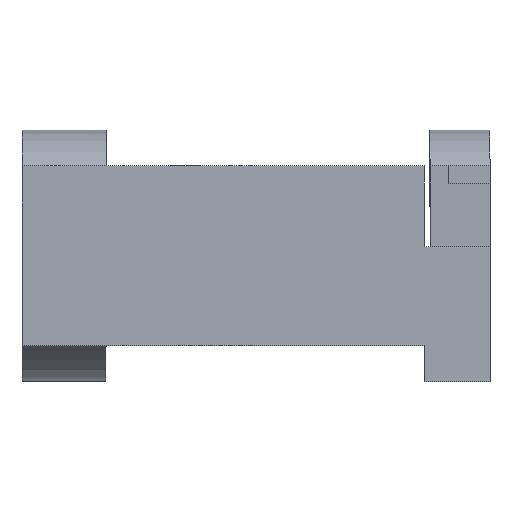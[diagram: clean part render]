
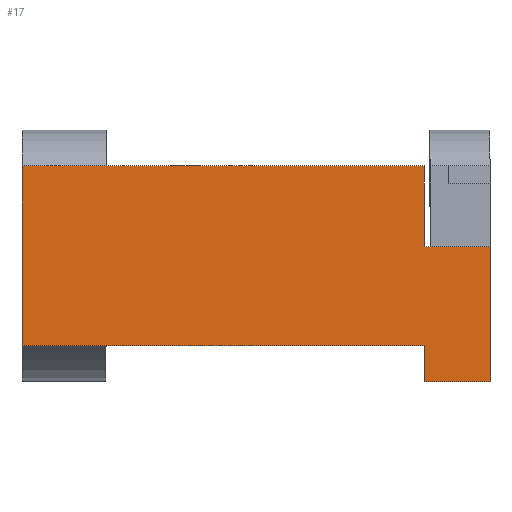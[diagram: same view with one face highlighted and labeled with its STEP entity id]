
A CAD part, left-side view. The second image highlights one B-rep face of the part: STEP entity #17.
In plain terms, the highlighted planar face has unit normal (-1, 0, 0).
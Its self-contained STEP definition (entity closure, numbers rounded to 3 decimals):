
#17 = ADVANCED_FACE('',(#18),#32,.F.);
#18 = FACE_BOUND('',#19,.F.);
#19 = EDGE_LOOP('',(#20,#55,#83,#111,#139,#167,#195,#223));
#20 = ORIENTED_EDGE('',*,*,#21,.F.);
#21 = EDGE_CURVE('',#22,#24,#26,.T.);
#22 = VERTEX_POINT('',#23);
#23 = CARTESIAN_POINT('',(-9.,3.7,-4.2));
#24 = VERTEX_POINT('',#25);
#25 = CARTESIAN_POINT('',(-9.,3.7,0.3));
#26 = SURFACE_CURVE('',#27,(#31,#43),.PCURVE_S1.);
#27 = LINE('',#28,#29);
#28 = CARTESIAN_POINT('',(-9.,3.7,-4.2));
#29 = VECTOR('',#30,1.);
#30 = DIRECTION('',(0.,0.,1.));
#31 = PCURVE('',#32,#37);
#32 = PLANE('',#33);
#33 = AXIS2_PLACEMENT_3D('',#34,#35,#36);
#34 = CARTESIAN_POINT('',(-9.,3.7,-3.));
#35 = DIRECTION('',(1.,0.,-0.));
#36 = DIRECTION('',(0.,0.,1.));
#37 = DEFINITIONAL_REPRESENTATION('',(#38),#42);
#38 = LINE('',#39,#40);
#39 = CARTESIAN_POINT('',(-1.2,0.));
#40 = VECTOR('',#41,1.);
#41 = DIRECTION('',(1.,0.));
#42 = ( GEOMETRIC_REPRESENTATION_CONTEXT(2) 
PARAMETRIC_REPRESENTATION_CONTEXT() REPRESENTATION_CONTEXT('2D SPACE',''
  ) );
#43 = PCURVE('',#44,#49);
#44 = PLANE('',#45);
#45 = AXIS2_PLACEMENT_3D('',#46,#47,#48);
#46 = CARTESIAN_POINT('',(-9.,3.7,-3.));
#47 = DIRECTION('',(-0.,1.,0.));
#48 = DIRECTION('',(0.,0.,1.));
#49 = DEFINITIONAL_REPRESENTATION('',(#50),#54);
#50 = LINE('',#51,#52);
#51 = CARTESIAN_POINT('',(-1.2,0.));
#52 = VECTOR('',#53,1.);
#53 = DIRECTION('',(1.,0.));
#54 = ( GEOMETRIC_REPRESENTATION_CONTEXT(2) 
PARAMETRIC_REPRESENTATION_CONTEXT() REPRESENTATION_CONTEXT('2D SPACE',''
  ) );
#55 = ORIENTED_EDGE('',*,*,#56,.T.);
#56 = EDGE_CURVE('',#22,#57,#59,.T.);
#57 = VERTEX_POINT('',#58);
#58 = CARTESIAN_POINT('',(-9.,5.9,-4.2));
#59 = SURFACE_CURVE('',#60,(#64,#71),.PCURVE_S1.);
#60 = LINE('',#61,#62);
#61 = CARTESIAN_POINT('',(-9.,3.7,-4.2));
#62 = VECTOR('',#63,1.);
#63 = DIRECTION('',(-0.,1.,0.));
#64 = PCURVE('',#32,#65);
#65 = DEFINITIONAL_REPRESENTATION('',(#66),#70);
#66 = LINE('',#67,#68);
#67 = CARTESIAN_POINT('',(-1.2,0.));
#68 = VECTOR('',#69,1.);
#69 = DIRECTION('',(0.,-1.));
#70 = ( GEOMETRIC_REPRESENTATION_CONTEXT(2) 
PARAMETRIC_REPRESENTATION_CONTEXT() REPRESENTATION_CONTEXT('2D SPACE',''
  ) );
#71 = PCURVE('',#72,#77);
#72 = PLANE('',#73);
#73 = AXIS2_PLACEMENT_3D('',#74,#75,#76);
#74 = CARTESIAN_POINT('',(-9.,3.7,-4.2));
#75 = DIRECTION('',(0.,0.,1.));
#76 = DIRECTION('',(1.,0.,-0.));
#77 = DEFINITIONAL_REPRESENTATION('',(#78),#82);
#78 = LINE('',#79,#80);
#79 = CARTESIAN_POINT('',(0.,0.));
#80 = VECTOR('',#81,1.);
#81 = DIRECTION('',(0.,1.));
#82 = ( GEOMETRIC_REPRESENTATION_CONTEXT(2) 
PARAMETRIC_REPRESENTATION_CONTEXT() REPRESENTATION_CONTEXT('2D SPACE',''
  ) );
#83 = ORIENTED_EDGE('',*,*,#84,.T.);
#84 = EDGE_CURVE('',#57,#85,#87,.T.);
#85 = VERTEX_POINT('',#86);
#86 = CARTESIAN_POINT('',(-9.,5.9,-3.));
#87 = SURFACE_CURVE('',#88,(#92,#99),.PCURVE_S1.);
#88 = LINE('',#89,#90);
#89 = CARTESIAN_POINT('',(-9.,5.9,-4.2));
#90 = VECTOR('',#91,1.);
#91 = DIRECTION('',(0.,0.,1.));
#92 = PCURVE('',#32,#93);
#93 = DEFINITIONAL_REPRESENTATION('',(#94),#98);
#94 = LINE('',#95,#96);
#95 = CARTESIAN_POINT('',(-1.2,-2.2));
#96 = VECTOR('',#97,1.);
#97 = DIRECTION('',(1.,0.));
#98 = ( GEOMETRIC_REPRESENTATION_CONTEXT(2) 
PARAMETRIC_REPRESENTATION_CONTEXT() REPRESENTATION_CONTEXT('2D SPACE',''
  ) );
#99 = PCURVE('',#100,#105);
#100 = PLANE('',#101);
#101 = AXIS2_PLACEMENT_3D('',#102,#103,#104);
#102 = CARTESIAN_POINT('',(-9.,5.9,-4.2));
#103 = DIRECTION('',(-0.,1.,0.));
#104 = DIRECTION('',(0.,0.,1.));
#105 = DEFINITIONAL_REPRESENTATION('',(#106),#110);
#106 = LINE('',#107,#108);
#107 = CARTESIAN_POINT('',(0.,0.));
#108 = VECTOR('',#109,1.);
#109 = DIRECTION('',(1.,0.));
#110 = ( GEOMETRIC_REPRESENTATION_CONTEXT(2) 
PARAMETRIC_REPRESENTATION_CONTEXT() REPRESENTATION_CONTEXT('2D SPACE',''
  ) );
#111 = ORIENTED_EDGE('',*,*,#112,.T.);
#112 = EDGE_CURVE('',#85,#113,#115,.T.);
#113 = VERTEX_POINT('',#114);
#114 = CARTESIAN_POINT('',(-9.,19.3,-3.));
#115 = SURFACE_CURVE('',#116,(#120,#127),.PCURVE_S1.);
#116 = LINE('',#117,#118);
#117 = CARTESIAN_POINT('',(-9.,3.7,-3.));
#118 = VECTOR('',#119,1.);
#119 = DIRECTION('',(-0.,1.,0.));
#120 = PCURVE('',#32,#121);
#121 = DEFINITIONAL_REPRESENTATION('',(#122),#126);
#122 = LINE('',#123,#124);
#123 = CARTESIAN_POINT('',(0.,0.));
#124 = VECTOR('',#125,1.);
#125 = DIRECTION('',(0.,-1.));
#126 = ( GEOMETRIC_REPRESENTATION_CONTEXT(2) 
PARAMETRIC_REPRESENTATION_CONTEXT() REPRESENTATION_CONTEXT('2D SPACE',''
  ) );
#127 = PCURVE('',#128,#133);
#128 = PLANE('',#129);
#129 = AXIS2_PLACEMENT_3D('',#130,#131,#132);
#130 = CARTESIAN_POINT('',(-9.,3.7,-3.));
#131 = DIRECTION('',(0.,0.,1.));
#132 = DIRECTION('',(1.,0.,-0.));
#133 = DEFINITIONAL_REPRESENTATION('',(#134),#138);
#134 = LINE('',#135,#136);
#135 = CARTESIAN_POINT('',(0.,0.));
#136 = VECTOR('',#137,1.);
#137 = DIRECTION('',(0.,1.));
#138 = ( GEOMETRIC_REPRESENTATION_CONTEXT(2) 
PARAMETRIC_REPRESENTATION_CONTEXT() REPRESENTATION_CONTEXT('2D SPACE',''
  ) );
#139 = ORIENTED_EDGE('',*,*,#140,.T.);
#140 = EDGE_CURVE('',#113,#141,#143,.T.);
#141 = VERTEX_POINT('',#142);
#142 = CARTESIAN_POINT('',(-9.,19.3,3.));
#143 = SURFACE_CURVE('',#144,(#148,#155),.PCURVE_S1.);
#144 = LINE('',#145,#146);
#145 = CARTESIAN_POINT('',(-9.,19.3,-3.));
#146 = VECTOR('',#147,1.);
#147 = DIRECTION('',(0.,0.,1.));
#148 = PCURVE('',#32,#149);
#149 = DEFINITIONAL_REPRESENTATION('',(#150),#154);
#150 = LINE('',#151,#152);
#151 = CARTESIAN_POINT('',(0.,-15.6));
#152 = VECTOR('',#153,1.);
#153 = DIRECTION('',(1.,0.));
#154 = ( GEOMETRIC_REPRESENTATION_CONTEXT(2) 
PARAMETRIC_REPRESENTATION_CONTEXT() REPRESENTATION_CONTEXT('2D SPACE',''
  ) );
#155 = PCURVE('',#156,#161);
#156 = PLANE('',#157);
#157 = AXIS2_PLACEMENT_3D('',#158,#159,#160);
#158 = CARTESIAN_POINT('',(-9.,19.3,-3.));
#159 = DIRECTION('',(-0.,1.,0.));
#160 = DIRECTION('',(0.,0.,1.));
#161 = DEFINITIONAL_REPRESENTATION('',(#162),#166);
#162 = LINE('',#163,#164);
#163 = CARTESIAN_POINT('',(0.,0.));
#164 = VECTOR('',#165,1.);
#165 = DIRECTION('',(1.,0.));
#166 = ( GEOMETRIC_REPRESENTATION_CONTEXT(2) 
PARAMETRIC_REPRESENTATION_CONTEXT() REPRESENTATION_CONTEXT('2D SPACE',''
  ) );
#167 = ORIENTED_EDGE('',*,*,#168,.F.);
#168 = EDGE_CURVE('',#169,#141,#171,.T.);
#169 = VERTEX_POINT('',#170);
#170 = CARTESIAN_POINT('',(-9.,5.9,3.));
#171 = SURFACE_CURVE('',#172,(#176,#183),.PCURVE_S1.);
#172 = LINE('',#173,#174);
#173 = CARTESIAN_POINT('',(-9.,3.7,3.));
#174 = VECTOR('',#175,1.);
#175 = DIRECTION('',(-0.,1.,0.));
#176 = PCURVE('',#32,#177);
#177 = DEFINITIONAL_REPRESENTATION('',(#178),#182);
#178 = LINE('',#179,#180);
#179 = CARTESIAN_POINT('',(6.,0.));
#180 = VECTOR('',#181,1.);
#181 = DIRECTION('',(0.,-1.));
#182 = ( GEOMETRIC_REPRESENTATION_CONTEXT(2) 
PARAMETRIC_REPRESENTATION_CONTEXT() REPRESENTATION_CONTEXT('2D SPACE',''
  ) );
#183 = PCURVE('',#184,#189);
#184 = PLANE('',#185);
#185 = AXIS2_PLACEMENT_3D('',#186,#187,#188);
#186 = CARTESIAN_POINT('',(-9.,3.7,3.));
#187 = DIRECTION('',(0.,0.,1.));
#188 = DIRECTION('',(1.,0.,-0.));
#189 = DEFINITIONAL_REPRESENTATION('',(#190),#194);
#190 = LINE('',#191,#192);
#191 = CARTESIAN_POINT('',(0.,0.));
#192 = VECTOR('',#193,1.);
#193 = DIRECTION('',(0.,1.));
#194 = ( GEOMETRIC_REPRESENTATION_CONTEXT(2) 
PARAMETRIC_REPRESENTATION_CONTEXT() REPRESENTATION_CONTEXT('2D SPACE',''
  ) );
#195 = ORIENTED_EDGE('',*,*,#196,.F.);
#196 = EDGE_CURVE('',#197,#169,#199,.T.);
#197 = VERTEX_POINT('',#198);
#198 = CARTESIAN_POINT('',(-9.,5.9,0.3));
#199 = SURFACE_CURVE('',#200,(#204,#211),.PCURVE_S1.);
#200 = LINE('',#201,#202);
#201 = CARTESIAN_POINT('',(-9.,5.9,-1.35));
#202 = VECTOR('',#203,1.);
#203 = DIRECTION('',(0.,0.,1.));
#204 = PCURVE('',#32,#205);
#205 = DEFINITIONAL_REPRESENTATION('',(#206),#210);
#206 = LINE('',#207,#208);
#207 = CARTESIAN_POINT('',(1.65,-2.2));
#208 = VECTOR('',#209,1.);
#209 = DIRECTION('',(1.,0.));
#210 = ( GEOMETRIC_REPRESENTATION_CONTEXT(2) 
PARAMETRIC_REPRESENTATION_CONTEXT() REPRESENTATION_CONTEXT('2D SPACE',''
  ) );
#211 = PCURVE('',#212,#217);
#212 = PLANE('',#213);
#213 = AXIS2_PLACEMENT_3D('',#214,#215,#216);
#214 = CARTESIAN_POINT('',(-11.,5.9,0.3));
#215 = DIRECTION('',(-0.,1.,0.));
#216 = DIRECTION('',(0.,0.,1.));
#217 = DEFINITIONAL_REPRESENTATION('',(#218),#222);
#218 = LINE('',#219,#220);
#219 = CARTESIAN_POINT('',(-1.65,2.));
#220 = VECTOR('',#221,1.);
#221 = DIRECTION('',(1.,0.));
#222 = ( GEOMETRIC_REPRESENTATION_CONTEXT(2) 
PARAMETRIC_REPRESENTATION_CONTEXT() REPRESENTATION_CONTEXT('2D SPACE',''
  ) );
#223 = ORIENTED_EDGE('',*,*,#224,.T.);
#224 = EDGE_CURVE('',#197,#24,#225,.T.);
#225 = SURFACE_CURVE('',#226,(#230,#237),.PCURVE_S1.);
#226 = LINE('',#227,#228);
#227 = CARTESIAN_POINT('',(-9.,3.6,0.3));
#228 = VECTOR('',#229,1.);
#229 = DIRECTION('',(0.,-1.,0.));
#230 = PCURVE('',#32,#231);
#231 = DEFINITIONAL_REPRESENTATION('',(#232),#236);
#232 = LINE('',#233,#234);
#233 = CARTESIAN_POINT('',(3.3,0.1));
#234 = VECTOR('',#235,1.);
#235 = DIRECTION('',(0.,1.));
#236 = ( GEOMETRIC_REPRESENTATION_CONTEXT(2) 
PARAMETRIC_REPRESENTATION_CONTEXT() REPRESENTATION_CONTEXT('2D SPACE',''
  ) );
#237 = PCURVE('',#238,#243);
#238 = PLANE('',#239);
#239 = AXIS2_PLACEMENT_3D('',#240,#241,#242);
#240 = CARTESIAN_POINT('',(-11.,3.5,0.3));
#241 = DIRECTION('',(0.,0.,1.));
#242 = DIRECTION('',(1.,0.,-0.));
#243 = DEFINITIONAL_REPRESENTATION('',(#244),#248);
#244 = LINE('',#245,#246);
#245 = CARTESIAN_POINT('',(2.,0.1));
#246 = VECTOR('',#247,1.);
#247 = DIRECTION('',(0.,-1.));
#248 = ( GEOMETRIC_REPRESENTATION_CONTEXT(2) 
PARAMETRIC_REPRESENTATION_CONTEXT() REPRESENTATION_CONTEXT('2D SPACE',''
  ) );
